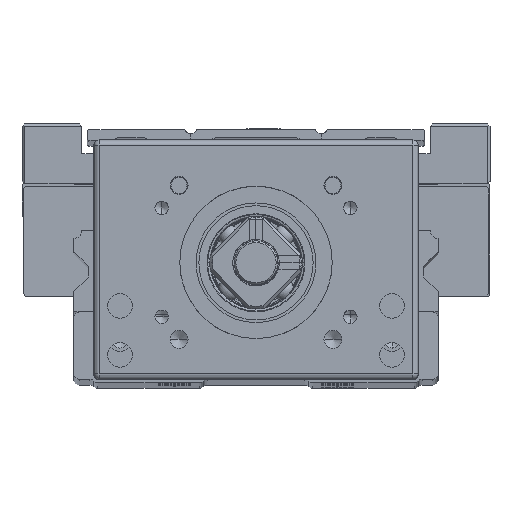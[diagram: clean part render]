
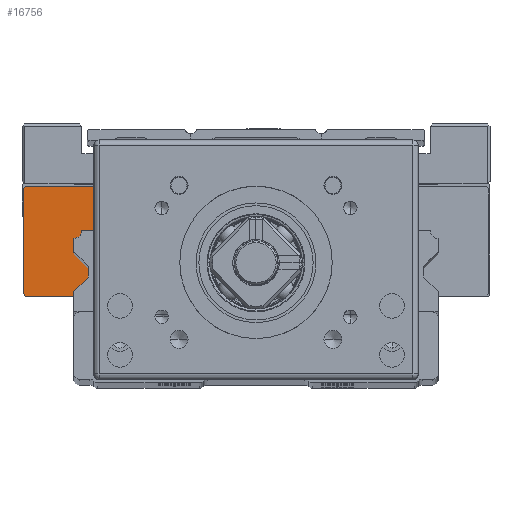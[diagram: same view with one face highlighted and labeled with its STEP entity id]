
A CAD part, top view. The second image highlights one B-rep face of the part: STEP entity #16756.
In plain terms, the highlighted planar face has unit normal (0, 0, 1).
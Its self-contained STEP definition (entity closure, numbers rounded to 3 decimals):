
#492 = VECTOR ( 'NONE', #30189, 1000. ) ;
#672 = VERTEX_POINT ( 'NONE', #18011 ) ;
#1584 = CARTESIAN_POINT ( 'NONE',  ( -42.8, 16.8, -126.3 ) ) ;
#1839 = DIRECTION ( 'NONE',  ( 0., 0., 1. ) ) ;
#2973 = DIRECTION ( 'NONE',  ( 0.707, -0.707, 0. ) ) ;
#4050 = CARTESIAN_POINT ( 'NONE',  ( -9.2, 28., -126.3 ) ) ;
#4729 = LINE ( 'NONE', #46718, #30244 ) ;
#5689 = VERTEX_POINT ( 'NONE', #10948 ) ;
#6389 = EDGE_LOOP ( 'NONE', ( #64981, #21295, #40719, #27146, #8302, #42755, #59821, #25081 ) ) ;
#6730 = VERTEX_POINT ( 'NONE', #7339 ) ;
#6820 = PLANE ( 'NONE',  #54895 ) ;
#7197 = EDGE_CURVE ( 'NONE', #26895, #6730, #33569, .T. ) ;
#7339 = CARTESIAN_POINT ( 'NONE',  ( -42.4, 36.4, -126.3 ) ) ;
#8062 = CARTESIAN_POINT ( 'NONE',  ( -42.55, 16.55, -126.3 ) ) ;
#8302 = ORIENTED_EDGE ( 'NONE', *, *, #62668, .T. ) ;
#10948 = CARTESIAN_POINT ( 'NONE',  ( -9.6, 36.4, -126.3 ) ) ;
#11133 = DIRECTION ( 'NONE',  ( -1., 0., 0. ) ) ;
#13153 = DIRECTION ( 'NONE',  ( -0.707, 0.707, 0. ) ) ;
#14072 = LINE ( 'NONE', #40465, #492 ) ;
#14212 = EDGE_CURVE ( 'NONE', #41406, #16953, #18720, .T. ) ;
#14382 = DIRECTION ( 'NONE',  ( 0., -1., 0. ) ) ;
#15612 = VECTOR ( 'NONE', #13153, 1000. ) ;
#16756 = ADVANCED_FACE ( 'NONE', ( #31327 ), #6820, .T. ) ;
#16841 = VECTOR ( 'NONE', #14382, 1000. ) ;
#16953 = VERTEX_POINT ( 'NONE', #1584 ) ;
#18011 = CARTESIAN_POINT ( 'NONE',  ( -9.2, 16.8, -126.3 ) ) ;
#18720 = LINE ( 'NONE', #8062, #15612 ) ;
#18982 = EDGE_CURVE ( 'NONE', #672, #51887, #35124, .T. ) ;
#21295 = ORIENTED_EDGE ( 'NONE', *, *, #47235, .T. ) ;
#22395 = EDGE_CURVE ( 'NONE', #5689, #6730, #14072, .T. ) ;
#25081 = ORIENTED_EDGE ( 'NONE', *, *, #22395, .T. ) ;
#26895 = VERTEX_POINT ( 'NONE', #65091 ) ;
#27146 = ORIENTED_EDGE ( 'NONE', *, *, #32274, .F. ) ;
#27241 = CARTESIAN_POINT ( 'NONE',  ( -26., 28., -126.3 ) ) ;
#28152 = CARTESIAN_POINT ( 'NONE',  ( -9.2, 36., -126.3 ) ) ;
#30189 = DIRECTION ( 'NONE',  ( -1., 0., 0. ) ) ;
#30244 = VECTOR ( 'NONE', #11133, 1000. ) ;
#31327 = FACE_OUTER_BOUND ( 'NONE', #6389, .T. ) ;
#32274 = EDGE_CURVE ( 'NONE', #49493, #41406, #4729, .T. ) ;
#33526 = CARTESIAN_POINT ( 'NONE',  ( -9.45, 36.25, -126.3 ) ) ;
#33569 = LINE ( 'NONE', #54088, #48709 ) ;
#35124 = LINE ( 'NONE', #4050, #60542 ) ;
#35697 = VECTOR ( 'NONE', #63597, 1000. ) ;
#37547 = DIRECTION ( 'NONE',  ( 1., 0., 0. ) ) ;
#38096 = CARTESIAN_POINT ( 'NONE',  ( -9.7, 16.3, -126.3 ) ) ;
#39782 = CARTESIAN_POINT ( 'NONE',  ( -42.8, 28., -126.3 ) ) ;
#40465 = CARTESIAN_POINT ( 'NONE',  ( -26., 36.4, -126.3 ) ) ;
#40719 = ORIENTED_EDGE ( 'NONE', *, *, #14212, .F. ) ;
#41406 = VERTEX_POINT ( 'NONE', #55440 ) ;
#42755 = ORIENTED_EDGE ( 'NONE', *, *, #18982, .T. ) ;
#44004 = LINE ( 'NONE', #39782, #16841 ) ;
#46718 = CARTESIAN_POINT ( 'NONE',  ( -43., 16.3, -126.3 ) ) ;
#47235 = EDGE_CURVE ( 'NONE', #26895, #16953, #44004, .T. ) ;
#47247 = LINE ( 'NONE', #33526, #63912 ) ;
#48709 = VECTOR ( 'NONE', #53875, 1000. ) ;
#49189 = LINE ( 'NONE', #38096, #35697 ) ;
#49493 = VERTEX_POINT ( 'NONE', #51584 ) ;
#51584 = CARTESIAN_POINT ( 'NONE',  ( -9.7, 16.3, -126.3 ) ) ;
#51887 = VERTEX_POINT ( 'NONE', #28152 ) ;
#53875 = DIRECTION ( 'NONE',  ( 0.707, 0.707, 0. ) ) ;
#54088 = CARTESIAN_POINT ( 'NONE',  ( -42.55, 36.25, -126.3 ) ) ;
#54776 = DIRECTION ( 'NONE',  ( 0., 1., 0. ) ) ;
#54895 = AXIS2_PLACEMENT_3D ( 'NONE', #27241, #1839, #37547 ) ;
#55440 = CARTESIAN_POINT ( 'NONE',  ( -42.3, 16.3, -126.3 ) ) ;
#59821 = ORIENTED_EDGE ( 'NONE', *, *, #63264, .F. ) ;
#60542 = VECTOR ( 'NONE', #54776, 1000. ) ;
#62668 = EDGE_CURVE ( 'NONE', #49493, #672, #49189, .T. ) ;
#63264 = EDGE_CURVE ( 'NONE', #5689, #51887, #47247, .T. ) ;
#63597 = DIRECTION ( 'NONE',  ( 0.707, 0.707, 0. ) ) ;
#63912 = VECTOR ( 'NONE', #2973, 1000. ) ;
#64981 = ORIENTED_EDGE ( 'NONE', *, *, #7197, .F. ) ;
#65091 = CARTESIAN_POINT ( 'NONE',  ( -42.8, 36., -126.3 ) ) ;
